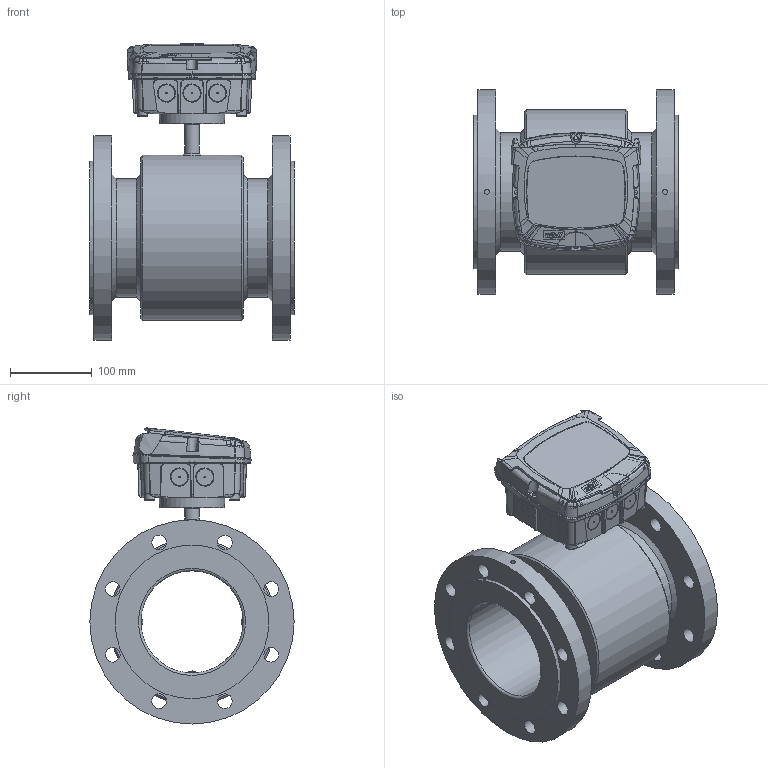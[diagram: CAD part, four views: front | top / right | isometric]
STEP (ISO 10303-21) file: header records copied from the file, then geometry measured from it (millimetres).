
FILE_DESCRIPTION((''),'2;1');
FILE_NAME('C:\Users\Claus\Dropbox\Projects 2011 - 2012\MJK Automation AS\DN 125 - DIN EN-1095-1.stp','2014-10-24T15:16:59',('Claus'),(''),'Autodesk Inventor 2013','Autodesk Inventor 2013','');
FILE_SCHEMA(('AUTOMOTIVE_DESIGN { 1 0 10303 214 1 1 1 1 }'));
Length unit declared in the file: millimetre
Products named in the file (7): DN 125 - DIN EN-1095-1; FC_MagFlux_assembly_r1; CH Bund ml; FC Top rev 06.04; CH 03.02; Electrode group DN15 - DN32
Assembly tree (8 placements, depth 3):
  DN 125 - DIN EN-1095-1
    DN 125 - DIN EN-1095-1
    FC_MagFlux_assembly_r1
      CH Bund ml
      FC Top rev 06.04
      CH 03.02
    Electrode group DN15 - DN32  x3
Bounding box: 250 x 250 x 362.34 mm (x, y, z)
Volume: 4867584.9 mm3; surface area: 677719.1 mm2
Topology: 10 solids, 10 shells, 2935 faces, 7994 edges, 5203 vertices
Faces by surface type: bspline 1752, plane 810, cylinder 210, cone 123, torus 25, revolution 9, sphere 6
Full cylindrical faces by diameter (mm): 2.5 x3, 3 x6, 4 x1, 6 x2, 6.5 x4, 7.042 x4, 8 x3, 8.048 x4, 12.072 x4, 15 x1, 18 x17, 18.108 x1, 64 x1, 125 x1, 145 x2, 188 x2, 202 x1, 250 x2
Entity records: 234060 total; most frequent: CARTESIAN_POINT 171564, ORIENTED_EDGE 15496, DIRECTION 7757, EDGE_CURVE 7748, VERTEX_POINT 5141, EDGE_LOOP 3273, VECTOR 3112, LINE 3112
